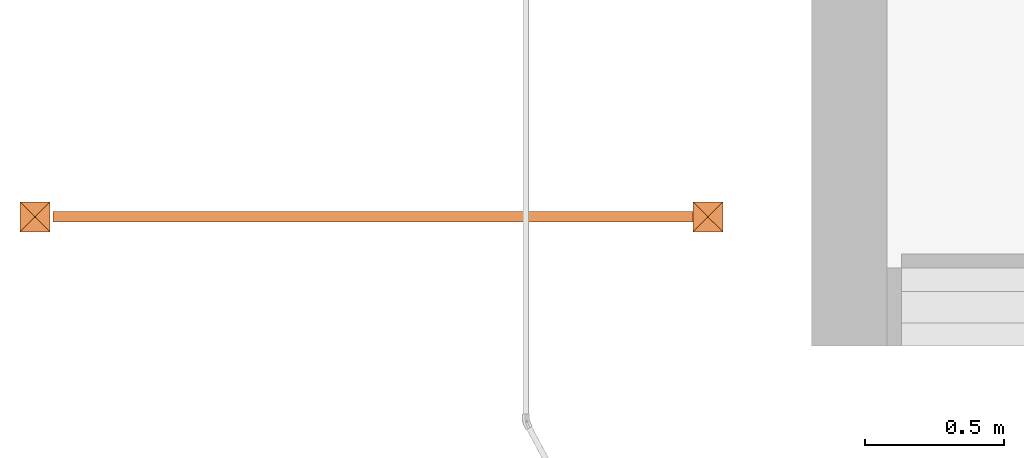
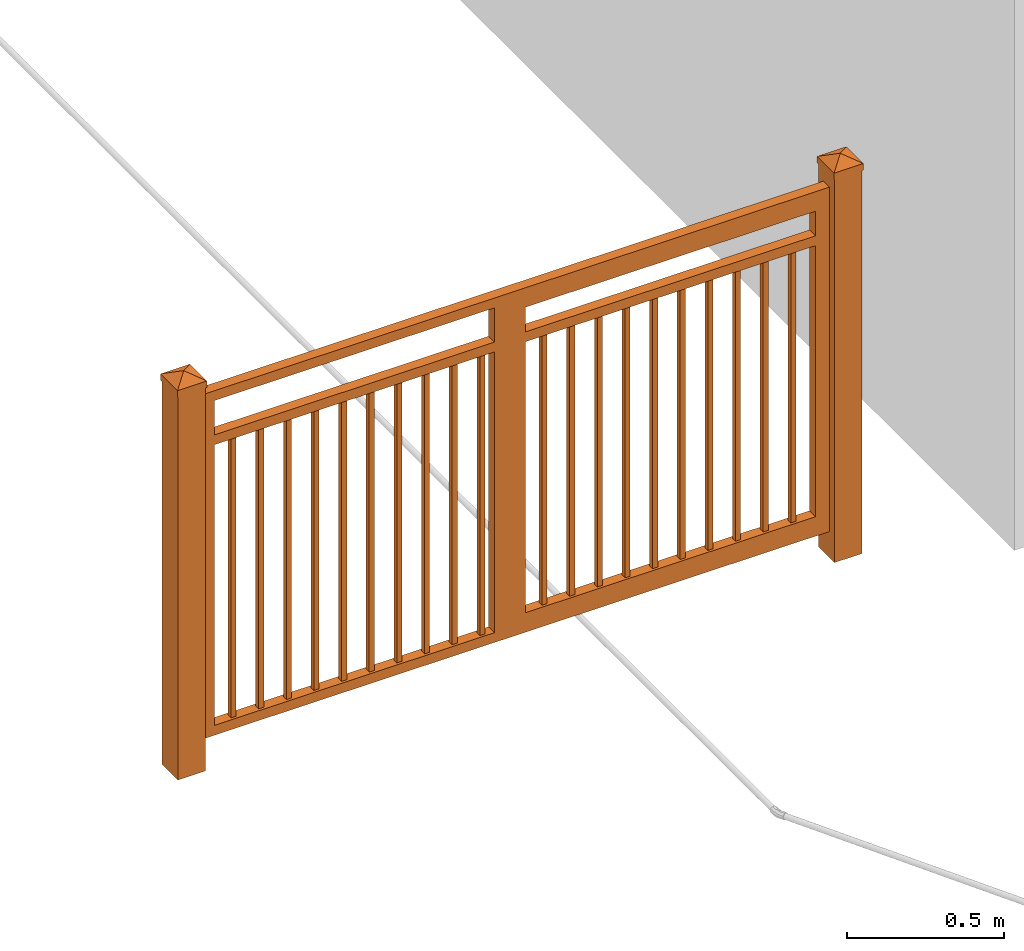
# One storey, part 41 of 41: 1 proxy.
"""IFC2X3 building model written with IfcOpenShell, lengths in millimetres."""

from ifc_helpers import new_model, entity, si_unit, converted_unit, derived_unit, direction, frame, origin, place, context, subcontext, project, spatial, faceted_brep, source, transform, mapped, type_object, type_shapes, element, save


model = new_model("IFC2X3")

# Units and contexts
model_context = context("Model", 3, precision=0.01, world=origin(), true_north=direction((6.12303176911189e-17, 1.0)))
body_context = subcontext(model_context, "Body", "Model", "MODEL_VIEW")
ifc_project = project(units=[si_unit("LENGTHUNIT", "METRE", prefix="MILLI"), si_unit("AREAUNIT", "SQUARE_METRE"), si_unit("VOLUMEUNIT", "CUBIC_METRE"), converted_unit("PLANEANGLEUNIT", "DEGREE", entity("IfcRatioMeasure", 0.0174532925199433), si_unit("PLANEANGLEUNIT", "RADIAN"), dimensions=[0, 0, 0, 0, 0, 0, 0]), si_unit("MASSUNIT", "GRAM", prefix="KILO"), derived_unit("MASSDENSITYUNIT", [(si_unit("MASSUNIT", "GRAM", prefix="KILO"), 1), (si_unit("LENGTHUNIT", "METRE"), -3)]), si_unit("TIMEUNIT", "SECOND"), si_unit("FREQUENCYUNIT", "HERTZ"), si_unit("THERMODYNAMICTEMPERATUREUNIT", "DEGREE_CELSIUS"), derived_unit("THERMALTRANSMITTANCEUNIT", [(si_unit("MASSUNIT", "GRAM", prefix="KILO"), 1), (si_unit("THERMODYNAMICTEMPERATUREUNIT", "KELVIN"), -1), (si_unit("TIMEUNIT", "SECOND"), -3)]), derived_unit("VOLUMETRICFLOWRATEUNIT", [(si_unit("LENGTHUNIT", "METRE"), 3), (si_unit("TIMEUNIT", "SECOND"), -1)]), si_unit("ELECTRICCURRENTUNIT", "AMPERE"), si_unit("ELECTRICVOLTAGEUNIT", "VOLT"), si_unit("POWERUNIT", "WATT"), si_unit("FORCEUNIT", "NEWTON", prefix="KILO"), si_unit("ILLUMINANCEUNIT", "LUX"), si_unit("LUMINOUSFLUXUNIT", "LUMEN"), si_unit("LUMINOUSINTENSITYUNIT", "CANDELA"), derived_unit("USERDEFINED", [(si_unit("MASSUNIT", "GRAM", prefix="KILO"), -1), (si_unit("LENGTHUNIT", "METRE"), -2), (si_unit("TIMEUNIT", "SECOND"), 3), (si_unit("LUMINOUSFLUXUNIT", "LUMEN"), 1)]), derived_unit("LINEARVELOCITYUNIT", [(si_unit("LENGTHUNIT", "METRE"), 1), (si_unit("TIMEUNIT", "SECOND"), -1)]), si_unit("PRESSUREUNIT", "PASCAL"), derived_unit("USERDEFINED", [(si_unit("LENGTHUNIT", "METRE"), -2), (si_unit("MASSUNIT", "GRAM", prefix="KILO"), 1), (si_unit("TIMEUNIT", "SECOND"), -2)])], contexts=[model_context])

# Site, building, storey
site_placement = place(None, origin())
site = spatial("IfcSite", under=ifc_project, at=site_placement, Name="Surface", CompositionType="ELEMENT")
building_placement = place(site_placement, origin())
building = spatial("IfcBuilding", under=site, at=building_placement, CompositionType="ELEMENT")
storey_placement = place(building_placement, frame((0.0, 0.0, 300.0)))
storey = spatial("IfcBuildingStorey", under=building, at=storey_placement, Name="F.F.L", CompositionType="ELEMENT", Elevation=300.0)

# Proxy
building_element_proxy_type = type_object("IfcBuildingElementProxyType", Name="6' Mtl Gate", PredefinedType="NOTDEFINED")
shared_shape = source(origin(), body_context, "Body", "Brep", [
    faceted_brep([(1311.275, -9.52500000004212, 1230.44999999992), (1330.325, -9.52500000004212, 1230.44999999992), (1330.325, 9.52499999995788, 1230.44999999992), (1311.275, 9.52499999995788, 1230.44999999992), (1311.275, -9.52500000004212, 139.699999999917), (1311.275, 9.52499999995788, 139.699999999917), (1330.325, 9.52499999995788, 139.699999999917), (1330.325, -9.52500000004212, 139.699999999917)], [[[0, 1, 2, 3]], [[4, 5, 6, 7]], [[3, 5, 4, 0]], [[2, 6, 5, 3]], [[1, 7, 6, 2]], [[0, 4, 7, 1]]]),
    faceted_brep([(1412.875, -9.52500000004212, 1230.44999999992), (1431.925, -9.52500000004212, 1230.44999999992), (1431.925, 9.52499999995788, 1230.44999999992), (1412.875, 9.52499999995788, 1230.44999999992), (1412.875, -9.52500000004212, 139.699999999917), (1412.875, 9.52499999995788, 139.699999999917), (1431.925, 9.52499999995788, 139.699999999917), (1431.925, -9.52500000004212, 139.699999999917)], [[[0, 1, 2, 3]], [[4, 5, 6, 7]], [[3, 5, 4, 0]], [[2, 6, 5, 3]], [[1, 7, 6, 2]], [[0, 4, 7, 1]]]),
    faceted_brep([(1514.475, -9.52500000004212, 1230.44999999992), (1533.525, -9.52500000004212, 1230.44999999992), (1533.525, 9.52499999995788, 1230.44999999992), (1514.475, 9.52499999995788, 1230.44999999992), (1514.475, -9.52500000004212, 139.699999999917), (1514.475, 9.52499999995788, 139.699999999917), (1533.525, 9.52499999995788, 139.699999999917), (1533.525, -9.52500000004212, 139.699999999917)], [[[0, 1, 2, 3]], [[4, 5, 6, 7]], [[3, 5, 4, 0]], [[2, 6, 5, 3]], [[1, 7, 6, 2]], [[0, 4, 7, 1]]]),
    faceted_brep([(1616.075, -9.52500000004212, 1230.44999999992), (1635.125, -9.52500000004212, 1230.44999999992), (1635.125, 9.52499999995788, 1230.44999999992), (1616.075, 9.52499999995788, 1230.44999999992), (1616.075, -9.52500000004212, 139.699999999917), (1616.075, 9.52499999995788, 139.699999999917), (1635.125, 9.52499999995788, 139.699999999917), (1635.125, -9.52500000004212, 139.699999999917)], [[[0, 1, 2, 3]], [[4, 5, 6, 7]], [[3, 5, 4, 0]], [[2, 6, 5, 3]], [[1, 7, 6, 2]], [[0, 4, 7, 1]]]),
    faceted_brep([(1717.675, -9.52500000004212, 1230.44999999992), (1736.725, -9.52500000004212, 1230.44999999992), (1736.725, 9.52499999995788, 1230.44999999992), (1717.675, 9.52499999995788, 1230.44999999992), (1717.675, -9.52500000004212, 139.699999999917), (1717.675, 9.52499999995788, 139.699999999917), (1736.725, 9.52499999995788, 139.699999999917), (1736.725, -9.52500000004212, 139.699999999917)], [[[0, 1, 2, 3]], [[4, 5, 6, 7]], [[3, 5, 4, 0]], [[2, 6, 5, 3]], [[1, 7, 6, 2]], [[0, 4, 7, 1]]]),
    faceted_brep([(1819.275, -9.52500000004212, 1230.44999999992), (1838.325, -9.52500000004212, 1230.44999999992), (1838.325, 9.52499999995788, 1230.44999999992), (1819.275, 9.52499999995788, 1230.44999999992), (1819.275, -9.52500000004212, 139.699999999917), (1819.275, 9.52499999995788, 139.699999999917), (1838.325, 9.52499999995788, 139.699999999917), (1838.325, -9.52500000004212, 139.699999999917)], [[[0, 1, 2, 3]], [[4, 5, 6, 7]], [[3, 5, 4, 0]], [[2, 6, 5, 3]], [[1, 7, 6, 2]], [[0, 4, 7, 1]]]),
    faceted_brep([(1920.875, -9.52500000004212, 1230.44999999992), (1939.925, -9.52500000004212, 1230.44999999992), (1939.925, 9.52499999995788, 1230.44999999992), (1920.875, 9.52499999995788, 1230.44999999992), (1920.875, -9.52500000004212, 139.699999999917), (1920.875, 9.52499999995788, 139.699999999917), (1939.925, 9.52499999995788, 139.699999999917), (1939.925, -9.52500000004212, 139.699999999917)], [[[0, 1, 2, 3]], [[4, 5, 6, 7]], [[3, 5, 4, 0]], [[2, 6, 5, 3]], [[1, 7, 6, 2]], [[0, 4, 7, 1]]]),
    faceted_brep([(2022.475, -9.52500000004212, 1230.44999999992), (2041.525, -9.52500000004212, 1230.44999999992), (2041.525, 9.52499999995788, 1230.44999999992), (2022.475, 9.52499999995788, 1230.44999999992), (2022.475, -9.52500000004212, 139.699999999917), (2022.475, 9.52499999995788, 139.699999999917), (2041.525, 9.52499999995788, 139.699999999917), (2041.525, -9.52500000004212, 139.699999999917)], [[[0, 1, 2, 3]], [[4, 5, 6, 7]], [[3, 5, 4, 0]], [[2, 6, 5, 3]], [[1, 7, 6, 2]], [[0, 4, 7, 1]]]),
    faceted_brep([(2124.075, -9.52500000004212, 1230.44999999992), (2143.125, -9.52500000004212, 1230.44999999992), (2143.125, 9.52499999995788, 1230.44999999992), (2124.075, 9.52499999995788, 1230.44999999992), (2124.075, -9.52500000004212, 139.699999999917), (2124.075, 9.52499999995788, 139.699999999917), (2143.125, 9.52499999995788, 139.699999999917), (2143.125, -9.52500000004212, 139.699999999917)], [[[0, 1, 2, 3]], [[4, 5, 6, 7]], [[3, 5, 4, 0]], [[2, 6, 5, 3]], [[1, 7, 6, 2]], [[0, 4, 7, 1]]]),
    faceted_brep([(2225.675, -9.52500000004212, 1230.44999999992), (2244.725, -9.52500000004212, 1230.44999999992), (2244.725, 9.52499999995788, 1230.44999999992), (2225.675, 9.52499999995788, 1230.44999999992), (2225.675, -9.52500000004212, 139.699999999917), (2225.675, 9.52499999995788, 139.699999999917), (2244.725, 9.52499999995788, 139.699999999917), (2244.725, -9.52500000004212, 139.699999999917)], [[[0, 1, 2, 3]], [[4, 5, 6, 7]], [[3, 5, 4, 0]], [[2, 6, 5, 3]], [[1, 7, 6, 2]], [[0, 4, 7, 1]]]),
    faceted_brep([(2359.02499999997, 53.9749999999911, 1490.8), (2466.97499999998, 53.9749999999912, 1490.8), (2466.97499999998, -53.9749999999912, 1490.8), (2359.02499999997, -53.9749999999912, 1490.8), (2359.02499999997, 53.9749999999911, 1516.2), (2466.97499999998, 53.9749999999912, 1516.2), (2466.97499999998, -53.9749999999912, 1516.2), (2359.02499999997, -53.9749999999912, 1516.2), (2411.3589143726, 1.68591506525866, 1541.6), (2411.3589143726, -1.62251666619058, 1541.6), (2414.57768722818, -1.62251666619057, 1541.6), (2414.57768722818, 1.68591506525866, 1541.6)], [[[0, 1, 2, 3]], [[0, 4, 5, 1]], [[1, 5, 6, 2]], [[2, 6, 7, 3]], [[3, 7, 4, 0]], [[8, 9, 10, 11]], [[11, 5, 4, 8]], [[10, 6, 5, 11]], [[9, 7, 6, 10]], [[8, 4, 7, 9]]]),
    faceted_brep([(2362.19999999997, -50.8000000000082, 1516.2), (2463.79999999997, -50.8000000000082, 1516.2), (2463.79999999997, 50.7999999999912, 1516.2), (2362.19999999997, 50.7999999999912, 1516.2), (2362.19999999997, -50.8000000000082, 0.0), (2362.19999999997, 50.7999999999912, 0.0), (2463.79999999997, 50.7999999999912, 0.0), (2463.79999999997, -50.8000000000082, 0.0)], [[[0, 1, 2, 3]], [[4, 5, 6, 7]], [[3, 5, 4, 0]], [[2, 6, 5, 3]], [[1, 7, 6, 2]], [[0, 4, 7, 1]]]),
    faceted_brep([(1101.725, -9.52500000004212, 1230.44999999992), (1101.725, 9.52499999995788, 1230.44999999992), (1082.675, 9.52499999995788, 1230.44999999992), (1082.675, -9.52500000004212, 1230.44999999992), (1101.725, -9.52500000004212, 139.699999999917), (1082.675, -9.52500000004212, 139.699999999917), (1082.675, 9.52499999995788, 139.699999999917), (1101.725, 9.52499999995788, 139.699999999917)], [[[0, 1, 2, 3]], [[4, 5, 6, 7]], [[1, 0, 4, 7]], [[2, 1, 7, 6]], [[3, 2, 6, 5]], [[0, 3, 5, 4]]]),
    faceted_brep([(1000.125, -9.52500000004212, 1230.44999999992), (1000.125, 9.52499999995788, 1230.44999999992), (981.075000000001, 9.52499999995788, 1230.44999999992), (981.075000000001, -9.52500000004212, 1230.44999999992), (1000.125, -9.52500000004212, 139.699999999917), (981.075000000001, -9.52500000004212, 139.699999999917), (981.075000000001, 9.52499999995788, 139.699999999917), (1000.125, 9.52499999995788, 139.699999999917)], [[[0, 1, 2, 3]], [[4, 5, 6, 7]], [[1, 0, 4, 7]], [[2, 1, 7, 6]], [[3, 2, 6, 5]], [[0, 3, 5, 4]]]),
    faceted_brep([(898.525000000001, -9.52500000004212, 1230.44999999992), (898.525000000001, 9.52499999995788, 1230.44999999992), (879.475000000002, 9.52499999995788, 1230.44999999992), (879.475000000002, -9.52500000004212, 1230.44999999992), (898.525000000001, -9.52500000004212, 139.699999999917), (879.475000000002, -9.52500000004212, 139.699999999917), (879.475000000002, 9.52499999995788, 139.699999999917), (898.525000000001, 9.52499999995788, 139.699999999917)], [[[0, 1, 2, 3]], [[4, 5, 6, 7]], [[1, 0, 4, 7]], [[2, 1, 7, 6]], [[3, 2, 6, 5]], [[0, 3, 5, 4]]]),
    faceted_brep([(796.925000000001, -9.52500000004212, 1230.44999999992), (796.925000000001, 9.52499999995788, 1230.44999999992), (777.875000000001, 9.52499999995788, 1230.44999999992), (777.875000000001, -9.52500000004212, 1230.44999999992), (796.925000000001, -9.52500000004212, 139.699999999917), (777.875000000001, -9.52500000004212, 139.699999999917), (777.875000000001, 9.52499999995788, 139.699999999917), (796.925000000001, 9.52499999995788, 139.699999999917)], [[[0, 1, 2, 3]], [[4, 5, 6, 7]], [[1, 0, 4, 7]], [[2, 1, 7, 6]], [[3, 2, 6, 5]], [[0, 3, 5, 4]]]),
    faceted_brep([(695.325000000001, -9.52500000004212, 1230.44999999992), (695.325000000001, 9.52499999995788, 1230.44999999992), (676.275000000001, 9.52499999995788, 1230.44999999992), (676.275000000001, -9.52500000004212, 1230.44999999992), (695.325000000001, -9.52500000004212, 139.699999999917), (676.275000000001, -9.52500000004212, 139.699999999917), (676.275000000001, 9.52499999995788, 139.699999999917), (695.325000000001, 9.52499999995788, 139.699999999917)], [[[0, 1, 2, 3]], [[4, 5, 6, 7]], [[1, 0, 4, 7]], [[2, 1, 7, 6]], [[3, 2, 6, 5]], [[0, 3, 5, 4]]]),
    faceted_brep([(593.725000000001, -9.52500000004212, 1230.44999999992), (593.725000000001, 9.52499999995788, 1230.44999999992), (574.675000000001, 9.52499999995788, 1230.44999999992), (574.675000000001, -9.52500000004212, 1230.44999999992), (593.725000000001, -9.52500000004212, 139.699999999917), (574.675000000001, -9.52500000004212, 139.699999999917), (574.675000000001, 9.52499999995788, 139.699999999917), (593.725000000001, 9.52499999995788, 139.699999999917)], [[[0, 1, 2, 3]], [[4, 5, 6, 7]], [[1, 0, 4, 7]], [[2, 1, 7, 6]], [[3, 2, 6, 5]], [[0, 3, 5, 4]]]),
    faceted_brep([(492.125000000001, -9.52500000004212, 1230.44999999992), (492.125000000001, 9.52499999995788, 1230.44999999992), (473.075000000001, 9.52499999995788, 1230.44999999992), (473.075000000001, -9.52500000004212, 1230.44999999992), (492.125000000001, -9.52500000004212, 139.699999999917), (473.075000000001, -9.52500000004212, 139.699999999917), (473.075000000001, 9.52499999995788, 139.699999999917), (492.125000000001, 9.52499999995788, 139.699999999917)], [[[0, 1, 2, 3]], [[4, 5, 6, 7]], [[1, 0, 4, 7]], [[2, 1, 7, 6]], [[3, 2, 6, 5]], [[0, 3, 5, 4]]]),
    faceted_brep([(390.525000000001, -9.52500000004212, 1230.44999999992), (390.525000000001, 9.52499999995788, 1230.44999999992), (371.475000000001, 9.52499999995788, 1230.44999999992), (371.475000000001, -9.52500000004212, 1230.44999999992), (390.525000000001, -9.52500000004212, 139.699999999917), (371.475000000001, -9.52500000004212, 139.699999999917), (371.475000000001, 9.52499999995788, 139.699999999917), (390.525000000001, 9.52499999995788, 139.699999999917)], [[[0, 1, 2, 3]], [[4, 5, 6, 7]], [[1, 0, 4, 7]], [[2, 1, 7, 6]], [[3, 2, 6, 5]], [[0, 3, 5, 4]]]),
    faceted_brep([(288.925000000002, -9.52500000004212, 1230.44999999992), (288.925000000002, 9.52499999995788, 1230.44999999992), (269.875000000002, 9.52499999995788, 1230.44999999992), (269.875000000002, -9.52500000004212, 1230.44999999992), (288.925000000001, -9.52500000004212, 139.699999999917), (269.875000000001, -9.52500000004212, 139.699999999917), (269.875000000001, 9.52499999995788, 139.699999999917), (288.925000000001, 9.52499999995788, 139.699999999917)], [[[0, 1, 2, 3]], [[4, 5, 6, 7]], [[1, 0, 4, 7]], [[2, 1, 7, 6]], [[3, 2, 6, 5]], [[0, 3, 5, 4]]]),
    faceted_brep([(187.325000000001, -9.52500000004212, 1230.44999999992), (187.325000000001, 9.52499999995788, 1230.44999999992), (168.275000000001, 9.52499999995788, 1230.44999999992), (168.275000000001, -9.52500000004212, 1230.44999999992), (187.325000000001, -9.52500000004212, 139.699999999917), (168.275000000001, -9.52500000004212, 139.699999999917), (168.275000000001, 9.52499999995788, 139.699999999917), (187.325000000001, 9.52499999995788, 139.699999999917)], [[[0, 1, 2, 3]], [[4, 5, 6, 7]], [[1, 0, 4, 7]], [[2, 1, 7, 6]], [[3, 2, 6, 5]], [[0, 3, 5, 4]]]),
    faceted_brep([(53.9750000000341, 53.9749999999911, 1490.8), (53.9750000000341, -53.9749999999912, 1490.8), (-53.9749999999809, -53.9749999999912, 1490.8), (-53.9749999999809, 53.9749999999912, 1490.8), (-53.9749999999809, 53.9749999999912, 1516.2), (53.9750000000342, 53.9749999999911, 1516.2), (-53.9749999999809, -53.9749999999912, 1516.2), (53.9750000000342, -53.9749999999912, 1516.2), (1.64108562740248, 1.68591506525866, 1541.6), (-1.57768722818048, 1.68591506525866, 1541.6), (-1.57768722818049, -1.62251666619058, 1541.6), (1.64108562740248, -1.62251666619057, 1541.6)], [[[0, 1, 2, 3]], [[0, 3, 4, 5]], [[3, 2, 6, 4]], [[2, 1, 7, 6]], [[1, 0, 5, 7]], [[8, 9, 10, 11]], [[9, 8, 5, 4]], [[10, 9, 4, 6]], [[11, 10, 6, 7]], [[8, 11, 7, 5]]]),
    faceted_brep([(50.8000000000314, -50.8000000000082, 1516.2), (50.8000000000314, 50.7999999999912, 1516.2), (-50.7999999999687, 50.7999999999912, 1516.2), (-50.7999999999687, -50.8000000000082, 1516.2), (50.8000000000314, -50.8000000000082, 0.0), (-50.7999999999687, -50.8000000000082, 0.0), (-50.7999999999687, 50.7999999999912, 0.0), (50.8000000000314, 50.7999999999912, 0.0)], [[[0, 1, 2, 3]], [[4, 5, 6, 7]], [[1, 0, 4, 7]], [[2, 1, 7, 6]], [[3, 2, 6, 5]], [[0, 3, 5, 4]]]),
    faceted_brep([(1244.6, 19.0499999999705, 1364.40000000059), (1244.6, -19.0500000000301, 1364.40000000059), (1244.6, -19.0500000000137, 177.200000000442), (1244.6, 19.0499999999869, 177.200000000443), (1169.0, -19.0500000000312, 1440.0), (1169.0, 19.0499999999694, 1440.0), (1169.0, 19.0499999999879, 101.600000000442), (1169.0, -19.0500000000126, 101.600000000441), (2311.4, -19.0500000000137, 177.200000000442), (2311.4, 19.0499999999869, 177.200000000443), (2387.0, 19.0499999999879, 101.600000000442), (2387.0, -19.0500000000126, 101.600000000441), (2311.4, -19.0500000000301, 1364.40000000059), (2311.4, 19.0499999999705, 1364.40000000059), (2387.0, 19.0499999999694, 1440.0), (2387.0, -19.0500000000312, 1440.0)], [[[0, 1, 2, 3]], [[4, 5, 6, 7]], [[3, 2, 8, 9]], [[7, 6, 10, 11]], [[9, 8, 12, 13]], [[11, 10, 14, 15]], [[7, 11, 15, 4], [1, 12, 8, 2]], [[13, 12, 1, 0]], [[3, 9, 13, 0], [5, 14, 10, 6]], [[15, 14, 5, 4]]], outer=[[True], [True], [True], [True], [True], [True], [True, False], [True], [False, True], [True]]),
    faceted_brep([(1244.6, -19.0500000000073, 1268.54999999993), (1244.6, 19.0499999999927, 1268.54999999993), (1244.6, 19.0499999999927, 1230.44999999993), (1244.6, -19.0500000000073, 1230.44999999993), (2311.4, -19.0500000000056, 1268.54999999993), (2311.4, -19.0500000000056, 1230.44999999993), (2311.4, 19.0499999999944, 1230.44999999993), (2311.4, 19.0499999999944, 1268.54999999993)], [[[0, 1, 2, 3]], [[4, 5, 6, 7]], [[1, 0, 4, 7]], [[2, 1, 7, 6]], [[3, 2, 6, 5]], [[0, 3, 5, 4]]]),
    faceted_brep([(1169.0, 19.0499999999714, 1440.0), (1169.0, -19.0500000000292, 1440.0), (1169.0, -19.0500000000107, 101.600000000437), (1169.0, 19.0499999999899, 101.600000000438), (1130.9, -19.0500000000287, 1401.90000000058), (1130.9, 19.0499999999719, 1401.90000000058), (1130.9, 19.0499999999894, 139.700000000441), (1130.9, -19.0500000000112, 139.70000000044), (63.5000000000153, -19.0500000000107, 101.600000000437), (63.5000000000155, 19.0499999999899, 101.600000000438), (101.600000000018, 19.0499999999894, 139.700000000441), (101.600000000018, -19.0500000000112, 139.700000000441), (63.5000000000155, -19.0500000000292, 1440.0), (63.5000000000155, 19.0499999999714, 1440.0), (101.600000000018, 19.0499999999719, 1401.90000000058), (101.600000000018, -19.0500000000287, 1401.90000000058)], [[[0, 1, 2, 3]], [[4, 5, 6, 7]], [[3, 2, 8, 9]], [[7, 6, 10, 11]], [[9, 8, 12, 13]], [[11, 10, 14, 15]], [[13, 12, 1, 0]], [[3, 9, 13, 0], [5, 14, 10, 6]], [[15, 14, 5, 4]], [[7, 11, 15, 4], [1, 12, 8, 2]]], outer=[[True], [True], [True], [True], [True], [True], [True], [True, False], [True], [False, True]]),
    faceted_brep([(1130.9, -19.0500000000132, 1268.54999999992), (1130.9, -19.0500000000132, 1230.44999999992), (1130.9, 19.0499999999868, 1230.44999999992), (1130.9, 19.0499999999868, 1268.54999999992), (101.600000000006, -19.0500000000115, 1268.54999999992), (101.600000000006, 19.0499999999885, 1268.54999999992), (101.600000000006, 19.0499999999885, 1230.44999999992), (101.600000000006, -19.0500000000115, 1230.44999999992)], [[[0, 1, 2, 3]], [[4, 5, 6, 7]], [[1, 0, 4, 7]], [[2, 1, 7, 6]], [[3, 2, 6, 5]], [[0, 3, 5, 4]]]),
])
type_shapes(building_element_proxy_type, [shared_shape])
proxy_placement = place(storey_placement, frame((-14871.8751700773, 5185.10966103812, -300.0)))
element("IfcBuildingElementProxy", 1, at=proxy_placement, inside=storey, type_object=building_element_proxy_type, Name="Ornamental_Gate_5113:6' Mtl Gate", ObjectType="6' Mtl Gate", context=body_context, shape_type="MappedRepresentation", body=[
    mapped(shared_shape, transform((0.0, 0.0, 0.0), scale=1.0)),
])

save(model, "model.ifc")
